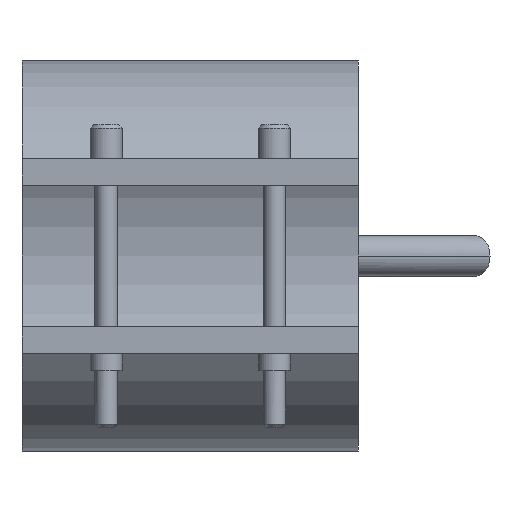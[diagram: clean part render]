
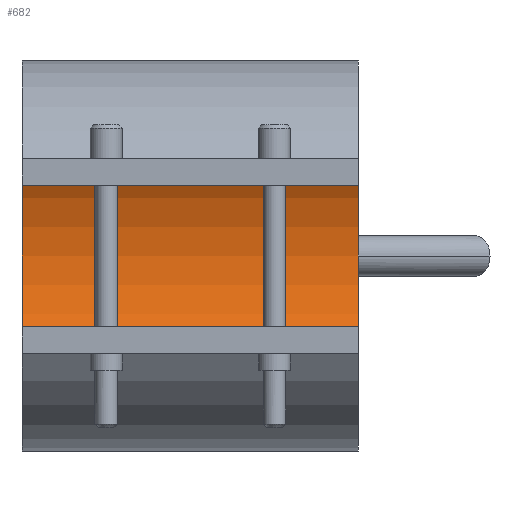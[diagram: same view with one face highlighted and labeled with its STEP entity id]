
A CAD part, front view. The second image highlights one B-rep face of the part: STEP entity #682.
In plain terms, the highlighted cylindrical face has radius 25 mm (diameter 50 mm), a partial arc.
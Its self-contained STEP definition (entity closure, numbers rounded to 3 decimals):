
#352=CARTESIAN_POINT('Vertex',(25.,0.,25.)) ;
#357=CARTESIAN_POINT('Axis2P3D Location',(25.,0.,0.)) ;
#361=CARTESIAN_POINT('Vertex',(25.,0.,-25.)) ;
#468=CARTESIAN_POINT('Vertex',(-25.,0.,-25.)) ;
#471=CARTESIAN_POINT('Axis2P3D Location',(-25.,0.,0.)) ;
#475=CARTESIAN_POINT('Vertex',(-25.,0.,25.)) ;
#654=CARTESIAN_POINT('Line Origine',(25.,0.,25.)) ;
#666=CARTESIAN_POINT('Axis2P3D Location',(25.,0.,0.)) ;
#671=CARTESIAN_POINT('Line Origine',(25.,0.,-25.)) ;
#358=DIRECTION('Axis2P3D Direction',(1.,0.,0.)) ;
#472=DIRECTION('Axis2P3D Direction',(1.,0.,0.)) ;
#655=DIRECTION('Vector Direction',(1.,0.,0.)) ;
#667=DIRECTION('Axis2P3D Direction',(1.,0.,-0.)) ;
#668=DIRECTION('Axis2P3D XDirection',(0.,0.,-1.)) ;
#672=DIRECTION('Vector Direction',(1.,0.,0.)) ;
#359=AXIS2_PLACEMENT_3D('Circle Axis2P3D',#357,#358,$) ;
#473=AXIS2_PLACEMENT_3D('Circle Axis2P3D',#471,#472,$) ;
#669=AXIS2_PLACEMENT_3D('Cylinder Axis2P3D',#666,#667,#668) ;
#677=ORIENTED_EDGE('',*,*,#363,.T.) ;
#678=ORIENTED_EDGE('',*,*,#658,.T.) ;
#679=ORIENTED_EDGE('',*,*,#477,.F.) ;
#680=ORIENTED_EDGE('',*,*,#675,.T.) ;
#656=VECTOR('Line Direction',#655,1.) ;
#673=VECTOR('Line Direction',#672,1.) ;
#682=ADVANCED_FACE('29050050',(#681),#670,.F.) ;
#360=CIRCLE('generated circle',#359,25.) ;
#474=CIRCLE('generated circle',#473,25.) ;
#670=CYLINDRICAL_SURFACE('generated cylinder',#669,25.) ;
#363=EDGE_CURVE('',#362,#353,#360,.T.) ;
#477=EDGE_CURVE('',#469,#476,#474,.T.) ;
#658=EDGE_CURVE('',#353,#476,#657,.F.) ;
#675=EDGE_CURVE('',#469,#362,#674,.T.) ;
#676=EDGE_LOOP('',(#677,#678,#679,#680)) ;
#681=FACE_OUTER_BOUND('',#676,.T.) ;
#657=LINE('Line',#654,#656) ;
#674=LINE('Line',#671,#673) ;
#353=VERTEX_POINT('',#352) ;
#362=VERTEX_POINT('',#361) ;
#469=VERTEX_POINT('',#468) ;
#476=VERTEX_POINT('',#475) ;
